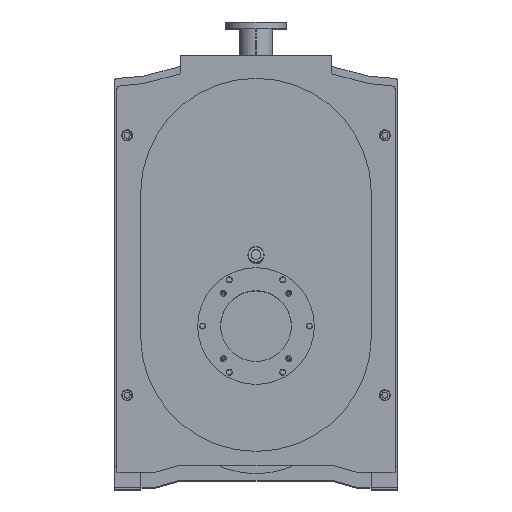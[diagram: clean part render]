
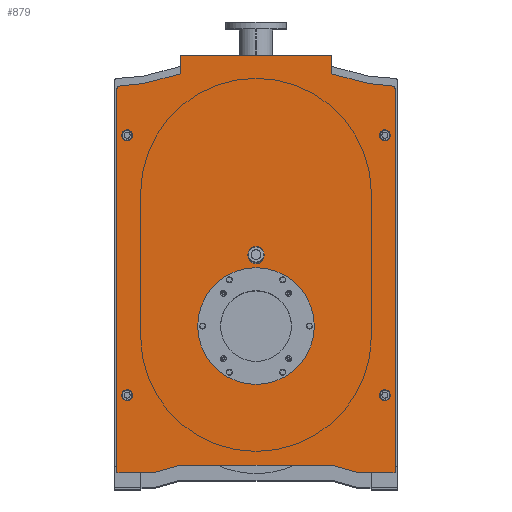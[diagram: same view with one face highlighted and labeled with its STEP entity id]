
A CAD part, top view. The second image highlights one B-rep face of the part: STEP entity #879.
In plain terms, the highlighted planar face has unit normal (0, 0, 1).
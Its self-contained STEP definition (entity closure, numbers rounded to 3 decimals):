
#20 = CARTESIAN_POINT ( 'NONE',  ( -560., 957., 2532. ) ) ;
#428 = VECTOR ( 'NONE', #2261, 1000. ) ;
#509 = LINE ( 'NONE', #4336, #5196 ) ;
#578 = DIRECTION ( 'NONE',  ( -0.995, 0.102, 0. ) ) ;
#618 = VERTEX_POINT ( 'NONE', #7487 ) ;
#665 = VERTEX_POINT ( 'NONE', #9597 ) ;
#668 = CARTESIAN_POINT ( 'NONE',  ( 550., 967., 2532. ) ) ;
#804 = ORIENTED_EDGE ( 'NONE', *, *, #6732, .T. ) ;
#879 = ADVANCED_FACE ( 'NONE', ( #8054, #10856 ), #7996, .T. ) ;
#960 = LINE ( 'NONE', #10352, #8136 ) ;
#1213 = EDGE_CURVE ( 'NONE', #5676, #4181, #960, .T. ) ;
#1327 = CARTESIAN_POINT ( 'NONE',  ( -305.5, 1016., 2532. ) ) ;
#1454 = DIRECTION ( 'NONE',  ( -0.995, -0.102, 0. ) ) ;
#1658 = CARTESIAN_POINT ( 'NONE',  ( 142.5, 0., 2532. ) ) ;
#1905 = LINE ( 'NONE', #10887, #4078 ) ;
#1913 = CARTESIAN_POINT ( 'NONE',  ( 0., 0., 2532. ) ) ;
#2012 = ORIENTED_EDGE ( 'NONE', *, *, #10597, .T. ) ;
#2085 = EDGE_LOOP ( 'NONE', ( #11026, #2758, #2978, #4420, #7641, #804, #5329, #2884, #3160, #6925, #5242, #2012, #3367, #5420, #9372, #9589 ) ) ;
#2168 = LINE ( 'NONE', #11091, #5244 ) ;
#2171 = EDGE_CURVE ( 'NONE', #6102, #5676, #8098, .T. ) ;
#2261 = DIRECTION ( 'NONE',  ( -0.966, -0.257, 0. ) ) ;
#2299 = CARTESIAN_POINT ( 'NONE',  ( 560., 957., 2532. ) ) ;
#2349 = LINE ( 'NONE', #8335, #7639 ) ;
#2360 = CARTESIAN_POINT ( 'NONE',  ( -452., 977., 2532. ) ) ;
#2416 = AXIS2_PLACEMENT_3D ( 'NONE', #8946, #3315, #9901 ) ;
#2502 = CARTESIAN_POINT ( 'NONE',  ( -410., -590., 2532. ) ) ;
#2603 = EDGE_CURVE ( 'NONE', #5483, #11500, #9697, .T. ) ;
#2632 = CARTESIAN_POINT ( 'NONE',  ( -550., 967., 2532. ) ) ;
#2701 = DIRECTION ( 'NONE',  ( 0., 1., 0. ) ) ;
#2758 = ORIENTED_EDGE ( 'NONE', *, *, #11624, .T. ) ;
#2845 = VECTOR ( 'NONE', #11707, 1000. ) ;
#2847 = DIRECTION ( 'NONE',  ( 1., 0., 0. ) ) ;
#2884 = ORIENTED_EDGE ( 'NONE', *, *, #7329, .T. ) ;
#2903 = CARTESIAN_POINT ( 'NONE',  ( -560., -590., 2532. ) ) ;
#2978 = ORIENTED_EDGE ( 'NONE', *, *, #4525, .T. ) ;
#2995 = CARTESIAN_POINT ( 'NONE',  ( -560., 957., 2532. ) ) ;
#3015 = DIRECTION ( 'NONE',  ( 1., 0., 0. ) ) ;
#3060 = CARTESIAN_POINT ( 'NONE',  ( 452., 977., 2532. ) ) ;
#3160 = ORIENTED_EDGE ( 'NONE', *, *, #10830, .T. ) ;
#3210 = VECTOR ( 'NONE', #5895, 1000. ) ;
#3315 = DIRECTION ( 'NONE',  ( 0., 0., 1. ) ) ;
#3367 = ORIENTED_EDGE ( 'NONE', *, *, #2603, .T. ) ;
#3495 = LINE ( 'NONE', #1327, #428 ) ;
#3535 = ORIENTED_EDGE ( 'NONE', *, *, #12124, .F. ) ;
#3881 = EDGE_CURVE ( 'NONE', #11500, #7400, #509, .T. ) ;
#4078 = VECTOR ( 'NONE', #578, 1000. ) ;
#4181 = VERTEX_POINT ( 'NONE', #8498 ) ;
#4253 = DIRECTION ( 'NONE',  ( 1., 0., 0. ) ) ;
#4336 = CARTESIAN_POINT ( 'NONE',  ( -560., -590., 2532. ) ) ;
#4370 = VERTEX_POINT ( 'NONE', #5904 ) ;
#4420 = ORIENTED_EDGE ( 'NONE', *, *, #9404, .T. ) ;
#4475 = DIRECTION ( 'NONE',  ( -1., 0., 0. ) ) ;
#4525 = EDGE_CURVE ( 'NONE', #8313, #8322, #5325, .T. ) ;
#4840 = VECTOR ( 'NONE', #1454, 1000. ) ;
#4917 = DIRECTION ( 'NONE',  ( 0., 0., 1. ) ) ;
#5054 = DIRECTION ( 'NONE',  ( 0., 0., 1. ) ) ;
#5196 = VECTOR ( 'NONE', #5290, 1000. ) ;
#5242 = ORIENTED_EDGE ( 'NONE', *, *, #11851, .T. ) ;
#5244 = VECTOR ( 'NONE', #4475, 1000. ) ;
#5290 = DIRECTION ( 'NONE',  ( 1., 0., 0. ) ) ;
#5325 = LINE ( 'NONE', #2299, #2845 ) ;
#5329 = ORIENTED_EDGE ( 'NONE', *, *, #6473, .T. ) ;
#5420 = ORIENTED_EDGE ( 'NONE', *, *, #3881, .T. ) ;
#5483 = VERTEX_POINT ( 'NONE', #20 ) ;
#5676 = VERTEX_POINT ( 'NONE', #7115 ) ;
#5719 = LINE ( 'NONE', #3060, #3210 ) ;
#5763 = VERTEX_POINT ( 'NONE', #10041 ) ;
#5826 = VERTEX_POINT ( 'NONE', #2632 ) ;
#5891 = VECTOR ( 'NONE', #4253, 1000. ) ;
#5895 = DIRECTION ( 'NONE',  ( -0.966, 0.257, 0. ) ) ;
#5904 = CARTESIAN_POINT ( 'NONE',  ( 305.5, 1090., 2532. ) ) ;
#5961 = VERTEX_POINT ( 'NONE', #10335 ) ;
#6102 = VERTEX_POINT ( 'NONE', #11498 ) ;
#6181 = EDGE_CURVE ( 'NONE', #5961, #618, #3495, .T. ) ;
#6198 = LINE ( 'NONE', #11436, #11495 ) ;
#6332 = CIRCLE ( 'NONE', #12123, 142.5 ) ;
#6346 = EDGE_CURVE ( 'NONE', #7400, #6102, #8521, .T. ) ;
#6473 = EDGE_CURVE ( 'NONE', #5763, #4370, #2349, .T. ) ;
#6559 = DIRECTION ( 'NONE',  ( 1., 0., 0. ) ) ;
#6608 = VECTOR ( 'NONE', #9060, 1000. ) ;
#6732 = EDGE_CURVE ( 'NONE', #665, #5763, #5719, .T. ) ;
#6925 = ORIENTED_EDGE ( 'NONE', *, *, #6181, .T. ) ;
#7115 = CARTESIAN_POINT ( 'NONE',  ( 302.5, -560., 2532. ) ) ;
#7146 = CARTESIAN_POINT ( 'NONE',  ( 560., 957., 2532. ) ) ;
#7329 = EDGE_CURVE ( 'NONE', #4370, #11930, #2168, .T. ) ;
#7400 = VERTEX_POINT ( 'NONE', #10272 ) ;
#7487 = CARTESIAN_POINT ( 'NONE',  ( -452., 977., 2532. ) ) ;
#7575 = DIRECTION ( 'NONE',  ( 0.963, -0.269, 0. ) ) ;
#7639 = VECTOR ( 'NONE', #2701, 1000. ) ;
#7641 = ORIENTED_EDGE ( 'NONE', *, *, #9039, .T. ) ;
#7996 = PLANE ( 'NONE',  #10636 ) ;
#8054 = FACE_BOUND ( 'NONE', #11496, .T. ) ;
#8098 = LINE ( 'NONE', #9904, #5891 ) ;
#8136 = VECTOR ( 'NONE', #7575, 1000. ) ;
#8313 = VERTEX_POINT ( 'NONE', #11847 ) ;
#8322 = VERTEX_POINT ( 'NONE', #7146 ) ;
#8335 = CARTESIAN_POINT ( 'NONE',  ( 305.5, 1016., 2532. ) ) ;
#8468 = DIRECTION ( 'NONE',  ( 0., 0., 1. ) ) ;
#8498 = CARTESIAN_POINT ( 'NONE',  ( 410., -590., 2532. ) ) ;
#8521 = LINE ( 'NONE', #2502, #6608 ) ;
#8946 = CARTESIAN_POINT ( 'NONE',  ( -550., 957., 2532. ) ) ;
#9039 = EDGE_CURVE ( 'NONE', #10735, #665, #1905, .T. ) ;
#9060 = DIRECTION ( 'NONE',  ( 0.963, 0.269, 0. ) ) ;
#9372 = ORIENTED_EDGE ( 'NONE', *, *, #6346, .T. ) ;
#9404 = EDGE_CURVE ( 'NONE', #8322, #10735, #12031, .T. ) ;
#9589 = ORIENTED_EDGE ( 'NONE', *, *, #2171, .T. ) ;
#9597 = CARTESIAN_POINT ( 'NONE',  ( 452., 977., 2532. ) ) ;
#9697 = LINE ( 'NONE', #2995, #11924 ) ;
#9871 = LINE ( 'NONE', #2360, #4840 ) ;
#9901 = DIRECTION ( 'NONE',  ( 1., 0., 0. ) ) ;
#9904 = CARTESIAN_POINT ( 'NONE',  ( -302.5, -560., 2532. ) ) ;
#10041 = CARTESIAN_POINT ( 'NONE',  ( 305.5, 1016., 2532. ) ) ;
#10272 = CARTESIAN_POINT ( 'NONE',  ( -410., -590., 2532. ) ) ;
#10335 = CARTESIAN_POINT ( 'NONE',  ( -305.5, 1016., 2532. ) ) ;
#10352 = CARTESIAN_POINT ( 'NONE',  ( 302.5, -560., 2532. ) ) ;
#10527 = DIRECTION ( 'NONE',  ( 0., -1., 0. ) ) ;
#10585 = CARTESIAN_POINT ( 'NONE',  ( 550., 957., 2532. ) ) ;
#10597 = EDGE_CURVE ( 'NONE', #5826, #5483, #10654, .T. ) ;
#10636 = AXIS2_PLACEMENT_3D ( 'NONE', #10585, #4917, #6559 ) ;
#10654 = CIRCLE ( 'NONE', #2416, 10. ) ;
#10710 = CARTESIAN_POINT ( 'NONE',  ( 550., 957., 2532. ) ) ;
#10735 = VERTEX_POINT ( 'NONE', #668 ) ;
#10793 = VECTOR ( 'NONE', #11143, 1000. ) ;
#10830 = EDGE_CURVE ( 'NONE', #11930, #5961, #11095, .T. ) ;
#10856 = FACE_OUTER_BOUND ( 'NONE', #2085, .T. ) ;
#10887 = CARTESIAN_POINT ( 'NONE',  ( 550., 967., 2532. ) ) ;
#10946 = CARTESIAN_POINT ( 'NONE',  ( -305.5, 1090., 2532. ) ) ;
#10994 = AXIS2_PLACEMENT_3D ( 'NONE', #10710, #5054, #11650 ) ;
#11020 = VERTEX_POINT ( 'NONE', #1658 ) ;
#11026 = ORIENTED_EDGE ( 'NONE', *, *, #1213, .T. ) ;
#11091 = CARTESIAN_POINT ( 'NONE',  ( 305.5, 1090., 2532. ) ) ;
#11095 = LINE ( 'NONE', #12047, #10793 ) ;
#11143 = DIRECTION ( 'NONE',  ( 0., -1., 0. ) ) ;
#11436 = CARTESIAN_POINT ( 'NONE',  ( 410., -590., 2532. ) ) ;
#11495 = VECTOR ( 'NONE', #3015, 1000. ) ;
#11496 = EDGE_LOOP ( 'NONE', ( #3535 ) ) ;
#11498 = CARTESIAN_POINT ( 'NONE',  ( -302.5, -560., 2532. ) ) ;
#11500 = VERTEX_POINT ( 'NONE', #2903 ) ;
#11624 = EDGE_CURVE ( 'NONE', #4181, #8313, #6198, .T. ) ;
#11650 = DIRECTION ( 'NONE',  ( 1., 0., 0. ) ) ;
#11707 = DIRECTION ( 'NONE',  ( 0., 1., 0. ) ) ;
#11847 = CARTESIAN_POINT ( 'NONE',  ( 560., -590., 2532. ) ) ;
#11851 = EDGE_CURVE ( 'NONE', #618, #5826, #9871, .T. ) ;
#11924 = VECTOR ( 'NONE', #10527, 1000. ) ;
#11930 = VERTEX_POINT ( 'NONE', #10946 ) ;
#12031 = CIRCLE ( 'NONE', #10994, 10. ) ;
#12047 = CARTESIAN_POINT ( 'NONE',  ( -305.5, 1090., 2532. ) ) ;
#12123 = AXIS2_PLACEMENT_3D ( 'NONE', #1913, #8468, #2847 ) ;
#12124 = EDGE_CURVE ( 'NONE', #11020, #11020, #6332, .T. ) ;
